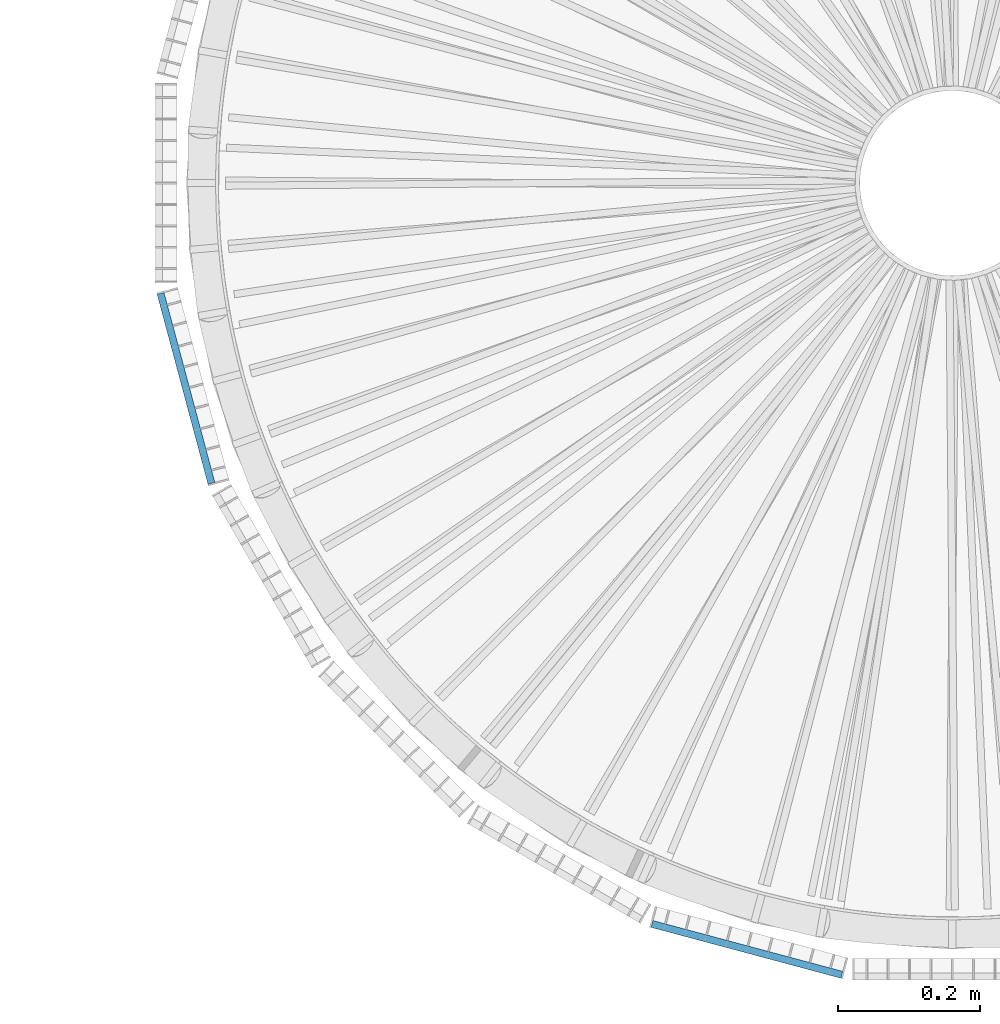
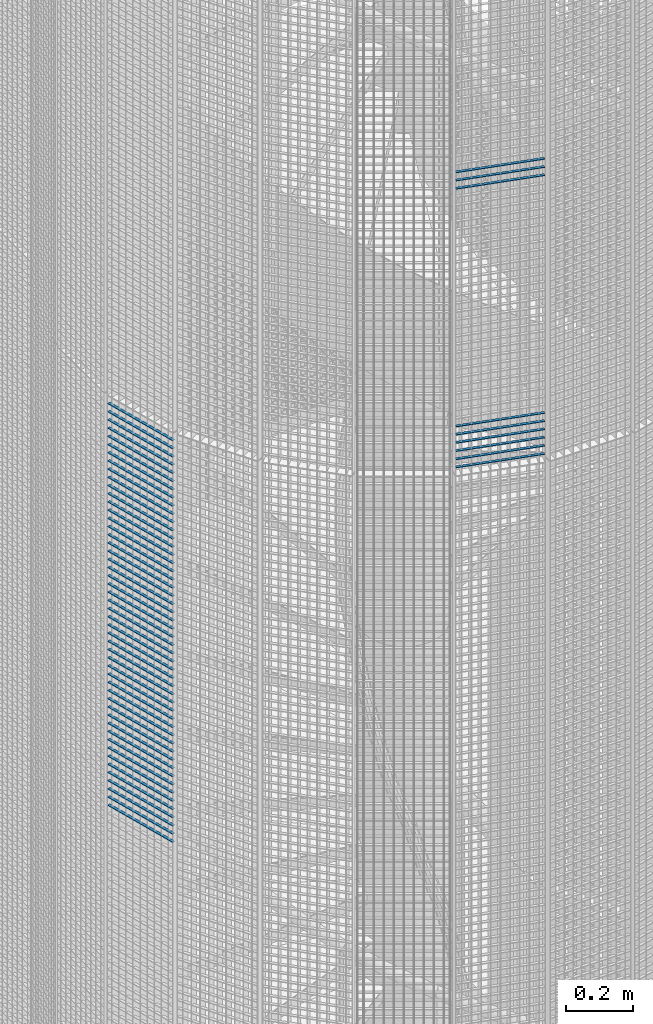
# One storey, part 345 of 1183: 59 beams, 2 elements without a shape of their own.
"""IFC2X3 building model written with IfcOpenShell, lengths in millimetres."""

from ifc_helpers import new_model, si_unit, frame, origin_with_axes, origin_2d_with_axis, place, context, subcontext, project, spatial, rectangle, extrude, material, type_object, element, aggregate, save


model = new_model("IFC2X3")

# Units and contexts
model_context = context("Model", 3, precision=1e-05, world=origin_with_axes())
body_context = subcontext(model_context, "Body", "Model", "MODEL_VIEW")
ifc_project = project(units=[si_unit("LENGTHUNIT", "METRE", prefix="MILLI"), si_unit("AREAUNIT", "SQUARE_METRE"), si_unit("VOLUMEUNIT", "CUBIC_METRE"), si_unit("MASSUNIT", "GRAM", prefix="KILO"), si_unit("TIMEUNIT", "SECOND"), si_unit("PLANEANGLEUNIT", "RADIAN"), si_unit("SOLIDANGLEUNIT", "STERADIAN"), si_unit("THERMODYNAMICTEMPERATUREUNIT", "DEGREE_CELSIUS"), si_unit("LUMINOUSINTENSITYUNIT", "LUMEN")], contexts=[model_context])

# Site, building, storey
site_placement = place(None, origin_with_axes())
site = spatial("IfcSite", under=ifc_project, at=site_placement, Name="Undefined", CompositionType="ELEMENT")
building_placement = place(site_placement, origin_with_axes())
building = spatial("IfcBuilding", under=site, at=building_placement, Name="Undefined", CompositionType="ELEMENT")
storey_placement = place(building_placement, origin_with_axes())
storey = spatial("IfcBuildingStorey", under=building, at=storey_placement, Name="Undefined", CompositionType="ELEMENT", Elevation=0.0)

# Assembly, beams
assembly_1_placement = place(storey_placement, origin_with_axes())
assembly_1 = element("IfcElementAssembly", 1, at=assembly_1_placement, inside=storey, Name="BORDURE", AssemblyPlace="NOTDEFINED", PredefinedType="NOTDEFINED")
ifc_material = material(Name="STEEL/S235JR")
beam_type = type_object("IfcBeamType", Name="PL2*10", PredefinedType="NOTDEFINED")
beam_1_placement = place(assembly_1_placement, frame((21445.1040732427, -1111.25508286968, 15180.0), z_axis=(-0.258819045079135, -0.965925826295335, 0.0), x_axis=(-0.965925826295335, 0.258819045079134, 0.0)))
beam_1 = element("IfcBeam", 2, at=beam_1_placement, type_object=beam_type, material=ifc_material, Name="ENTRETOISE", context=body_context, shape_type="SweptSolid", body=[
    extrude(rectangle(XDim=2.0, YDim=10.0, at=origin_2d_with_axis()), frame((275.999999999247, 9.09494701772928e-13, 1.53210777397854e-14), z_axis=(-1.0, 0.0, 0.0), x_axis=(0.0, -1.0, 0.0)), (0.0, 0.0, 1.0), 276.0),
])
beam_2_placement = place(assembly_1_placement, frame((21445.1040732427, -1111.25508286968, 16050.0), z_axis=(-0.258819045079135, -0.965925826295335, 0.0), x_axis=(-0.965925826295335, 0.258819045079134, 0.0)))
beam_2 = element("IfcBeam", 3, at=beam_2_placement, type_object=beam_type, material=ifc_material, Name="ENTRETOISE", context=body_context, shape_type="SweptSolid", body=[
    extrude(rectangle(XDim=2.0, YDim=10.0, at=origin_2d_with_axis()), frame((275.999999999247, 9.09494701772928e-13, 1.53210777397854e-14), z_axis=(-1.0, 0.0, 0.0), x_axis=(0.0, -1.0, 0.0)), (0.0, 0.0, 1.0), 276.0),
])
beam_3_placement = place(assembly_1_placement, frame((21445.1040732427, -1111.25508286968, 15150.0), z_axis=(-0.258819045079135, -0.965925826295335, 0.0), x_axis=(-0.965925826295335, 0.258819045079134, 0.0)))
beam_3 = element("IfcBeam", 4, at=beam_3_placement, type_object=beam_type, material=ifc_material, Name="ENTRETOISE", context=body_context, shape_type="SweptSolid", body=[
    extrude(rectangle(XDim=2.0, YDim=10.0, at=origin_2d_with_axis()), frame((275.999999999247, 9.09494701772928e-13, 1.53210777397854e-14), z_axis=(-1.0, 0.0, 0.0), x_axis=(0.0, -1.0, 0.0)), (0.0, 0.0, 1.0), 276.0),
])
beam_4_placement = place(assembly_1_placement, frame((21445.1040732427, -1111.25508286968, 15120.0), z_axis=(-0.258819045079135, -0.965925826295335, 0.0), x_axis=(-0.965925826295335, 0.258819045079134, 0.0)))
beam_4 = element("IfcBeam", 5, at=beam_4_placement, type_object=beam_type, material=ifc_material, Name="ENTRETOISE", context=body_context, shape_type="SweptSolid", body=[
    extrude(rectangle(XDim=2.0, YDim=10.0, at=origin_2d_with_axis()), frame((275.999999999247, 9.09494701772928e-13, 1.53210777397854e-14), z_axis=(-1.0, 0.0, 0.0), x_axis=(0.0, -1.0, 0.0)), (0.0, 0.0, 1.0), 276.0),
])
beam_5_placement = place(assembly_1_placement, frame((21445.1040732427, -1111.25508286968, 16080.0), z_axis=(-0.258819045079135, -0.965925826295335, 0.0), x_axis=(-0.965925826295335, 0.258819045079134, 0.0)))
beam_5 = element("IfcBeam", 6, at=beam_5_placement, type_object=beam_type, material=ifc_material, Name="ENTRETOISE", context=body_context, shape_type="SweptSolid", body=[
    extrude(rectangle(XDim=2.0, YDim=10.0, at=origin_2d_with_axis()), frame((275.999999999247, 9.09494701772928e-13, 1.53210777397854e-14), z_axis=(-1.0, 0.0, 0.0), x_axis=(0.0, -1.0, 0.0)), (0.0, 0.0, 1.0), 276.0),
])
beam_6_placement = place(assembly_1_placement, frame((21445.1040732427, -1111.25508286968, 15090.0), z_axis=(-0.258819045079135, -0.965925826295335, 0.0), x_axis=(-0.965925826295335, 0.258819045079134, 0.0)))
beam_6 = element("IfcBeam", 7, at=beam_6_placement, type_object=beam_type, material=ifc_material, Name="ENTRETOISE", context=body_context, shape_type="SweptSolid", body=[
    extrude(rectangle(XDim=2.0, YDim=10.0, at=origin_2d_with_axis()), frame((275.999999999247, 9.09494701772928e-13, 1.53210777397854e-14), z_axis=(-1.0, 0.0, 0.0), x_axis=(0.0, -1.0, 0.0)), (0.0, 0.0, 1.0), 276.0),
])
beam_7_placement = place(assembly_1_placement, frame((21445.1040732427, -1111.25508286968, 15060.0), z_axis=(-0.258819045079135, -0.965925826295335, 0.0), x_axis=(-0.965925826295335, 0.258819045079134, 0.0)))
beam_7 = element("IfcBeam", 8, at=beam_7_placement, type_object=beam_type, material=ifc_material, Name="ENTRETOISE", context=body_context, shape_type="SweptSolid", body=[
    extrude(rectangle(XDim=2.0, YDim=10.0, at=origin_2d_with_axis()), frame((275.999999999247, 9.09494701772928e-13, 1.53210777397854e-14), z_axis=(-1.0, 0.0, 0.0), x_axis=(0.0, -1.0, 0.0)), (0.0, 0.0, 1.0), 276.0),
])
beam_8_placement = place(assembly_1_placement, frame((21445.1040732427, -1111.25508286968, 16110.0), z_axis=(-0.258819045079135, -0.965925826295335, 0.0), x_axis=(-0.965925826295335, 0.258819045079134, 0.0)))
beam_8 = element("IfcBeam", 9, at=beam_8_placement, type_object=beam_type, material=ifc_material, Name="ENTRETOISE", context=body_context, shape_type="SweptSolid", body=[
    extrude(rectangle(XDim=2.0, YDim=10.0, at=origin_2d_with_axis()), frame((275.999999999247, 9.09494701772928e-13, 1.53210777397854e-14), z_axis=(-1.0, 0.0, 0.0), x_axis=(0.0, -1.0, 0.0)), (0.0, 0.0, 1.0), 276.0),
])
beam_9_placement = place(assembly_1_placement, frame((21445.1040732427, -1111.25508286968, 15030.0), z_axis=(-0.258819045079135, -0.965925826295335, 0.0), x_axis=(-0.965925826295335, 0.258819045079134, 0.0)))
beam_9 = element("IfcBeam", 10, at=beam_9_placement, type_object=beam_type, material=ifc_material, Name="ENTRETOISE", context=body_context, shape_type="SweptSolid", body=[
    extrude(rectangle(XDim=2.0, YDim=10.0, at=origin_2d_with_axis()), frame((275.999999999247, 9.09494701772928e-13, 1.53210777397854e-14), z_axis=(-1.0, 0.0, 0.0), x_axis=(0.0, -1.0, 0.0)), (0.0, 0.0, 1.0), 276.0),
])
aggregate(assembly_1, [beam_1, beam_2, beam_3, beam_4, beam_5, beam_6, beam_7, beam_8, beam_9])

assembly_2_placement = place(storey_placement, origin_with_axes())
assembly_2 = element("IfcElementAssembly", 11, at=assembly_2_placement, inside=storey, Name="BORDURE", AssemblyPlace="NOTDEFINED", PredefinedType="NOTDEFINED")
beam_10_placement = place(assembly_2_placement, frame((20560.1769047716, -421.483733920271, 14970.0), z_axis=(-0.965925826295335, -0.258819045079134, 0.0), x_axis=(-0.258819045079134, 0.965925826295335, 0.0)))
beam_10 = element("IfcBeam", 12, at=beam_10_placement, type_object=beam_type, material=ifc_material, Name="ENTRETOISE", context=body_context, shape_type="SweptSolid", body=[
    extrude(rectangle(XDim=2.0, YDim=10.0, at=origin_2d_with_axis()), frame((275.999999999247, 9.09494701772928e-13, 1.53210777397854e-14), z_axis=(-1.0, 0.0, 0.0), x_axis=(0.0, -1.0, 0.0)), (0.0, 0.0, 1.0), 276.0),
])
beam_11_placement = place(assembly_2_placement, frame((20560.1769047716, -421.483733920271, 14940.0), z_axis=(-0.965925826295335, -0.258819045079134, 0.0), x_axis=(-0.258819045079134, 0.965925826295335, 0.0)))
beam_11 = element("IfcBeam", 13, at=beam_11_placement, type_object=beam_type, material=ifc_material, Name="ENTRETOISE", context=body_context, shape_type="SweptSolid", body=[
    extrude(rectangle(XDim=2.0, YDim=10.0, at=origin_2d_with_axis()), frame((275.999999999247, 9.09494701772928e-13, 1.53210777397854e-14), z_axis=(-1.0, 0.0, 0.0), x_axis=(0.0, -1.0, 0.0)), (0.0, 0.0, 1.0), 276.0),
])
beam_12_placement = place(assembly_2_placement, frame((20560.1769047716, -421.483733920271, 14910.0), z_axis=(-0.965925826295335, -0.258819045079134, 0.0), x_axis=(-0.258819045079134, 0.965925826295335, 0.0)))
beam_12 = element("IfcBeam", 14, at=beam_12_placement, type_object=beam_type, material=ifc_material, Name="ENTRETOISE", context=body_context, shape_type="SweptSolid", body=[
    extrude(rectangle(XDim=2.0, YDim=10.0, at=origin_2d_with_axis()), frame((275.999999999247, 9.09494701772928e-13, 1.53210777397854e-14), z_axis=(-1.0, 0.0, 0.0), x_axis=(0.0, -1.0, 0.0)), (0.0, 0.0, 1.0), 276.0),
])
beam_13_placement = place(assembly_2_placement, frame((20560.1769047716, -421.483733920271, 14880.0), z_axis=(-0.965925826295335, -0.258819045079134, 0.0), x_axis=(-0.258819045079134, 0.965925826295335, 0.0)))
beam_13 = element("IfcBeam", 15, at=beam_13_placement, type_object=beam_type, material=ifc_material, Name="ENTRETOISE", context=body_context, shape_type="SweptSolid", body=[
    extrude(rectangle(XDim=2.0, YDim=10.0, at=origin_2d_with_axis()), frame((275.999999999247, 9.09494701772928e-13, 1.53210777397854e-14), z_axis=(-1.0, 0.0, 0.0), x_axis=(0.0, -1.0, 0.0)), (0.0, 0.0, 1.0), 276.0),
])
beam_14_placement = place(assembly_2_placement, frame((20560.1769047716, -421.483733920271, 14850.0), z_axis=(-0.965925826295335, -0.258819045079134, 0.0), x_axis=(-0.258819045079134, 0.965925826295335, 0.0)))
beam_14 = element("IfcBeam", 16, at=beam_14_placement, type_object=beam_type, material=ifc_material, Name="ENTRETOISE", context=body_context, shape_type="SweptSolid", body=[
    extrude(rectangle(XDim=2.0, YDim=10.0, at=origin_2d_with_axis()), frame((275.999999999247, 9.09494701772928e-13, 1.53210777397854e-14), z_axis=(-1.0, 0.0, 0.0), x_axis=(0.0, -1.0, 0.0)), (0.0, 0.0, 1.0), 276.0),
])
beam_15_placement = place(assembly_2_placement, frame((20560.1769047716, -421.483733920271, 14820.0), z_axis=(-0.965925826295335, -0.258819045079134, 0.0), x_axis=(-0.258819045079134, 0.965925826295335, 0.0)))
beam_15 = element("IfcBeam", 17, at=beam_15_placement, type_object=beam_type, material=ifc_material, Name="ENTRETOISE", context=body_context, shape_type="SweptSolid", body=[
    extrude(rectangle(XDim=2.0, YDim=10.0, at=origin_2d_with_axis()), frame((275.999999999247, 9.09494701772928e-13, 1.53210777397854e-14), z_axis=(-1.0, 0.0, 0.0), x_axis=(0.0, -1.0, 0.0)), (0.0, 0.0, 1.0), 276.0),
])
beam_16_placement = place(assembly_2_placement, frame((20560.1769047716, -421.483733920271, 14790.0), z_axis=(-0.965925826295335, -0.258819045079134, 0.0), x_axis=(-0.258819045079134, 0.965925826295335, 0.0)))
beam_16 = element("IfcBeam", 18, at=beam_16_placement, type_object=beam_type, material=ifc_material, Name="ENTRETOISE", context=body_context, shape_type="SweptSolid", body=[
    extrude(rectangle(XDim=2.0, YDim=10.0, at=origin_2d_with_axis()), frame((275.999999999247, 9.09494701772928e-13, 1.53210777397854e-14), z_axis=(-1.0, 0.0, 0.0), x_axis=(0.0, -1.0, 0.0)), (0.0, 0.0, 1.0), 276.0),
])
beam_17_placement = place(assembly_2_placement, frame((20560.1769047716, -421.483733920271, 14760.0), z_axis=(-0.965925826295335, -0.258819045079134, 0.0), x_axis=(-0.258819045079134, 0.965925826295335, 0.0)))
beam_17 = element("IfcBeam", 19, at=beam_17_placement, type_object=beam_type, material=ifc_material, Name="ENTRETOISE", context=body_context, shape_type="SweptSolid", body=[
    extrude(rectangle(XDim=2.0, YDim=10.0, at=origin_2d_with_axis()), frame((275.999999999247, 9.09494701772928e-13, 1.53210777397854e-14), z_axis=(-1.0, 0.0, 0.0), x_axis=(0.0, -1.0, 0.0)), (0.0, 0.0, 1.0), 276.0),
])
beam_18_placement = place(assembly_2_placement, frame((20560.1769047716, -421.48373392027, 14730.0), z_axis=(-0.965925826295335, -0.258819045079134, 0.0), x_axis=(-0.258819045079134, 0.965925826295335, 0.0)))
beam_18 = element("IfcBeam", 20, at=beam_18_placement, type_object=beam_type, material=ifc_material, Name="ENTRETOISE", context=body_context, shape_type="SweptSolid", body=[
    extrude(rectangle(XDim=2.0, YDim=10.0, at=origin_2d_with_axis()), frame((275.999999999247, 9.09494701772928e-13, 1.53210777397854e-14), z_axis=(-1.0, 0.0, 0.0), x_axis=(0.0, -1.0, 0.0)), (0.0, 0.0, 1.0), 276.0),
])
beam_19_placement = place(assembly_2_placement, frame((20560.1769047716, -421.48373392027, 14700.0), z_axis=(-0.965925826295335, -0.258819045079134, 0.0), x_axis=(-0.258819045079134, 0.965925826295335, 0.0)))
beam_19 = element("IfcBeam", 21, at=beam_19_placement, type_object=beam_type, material=ifc_material, Name="ENTRETOISE", context=body_context, shape_type="SweptSolid", body=[
    extrude(rectangle(XDim=2.0, YDim=10.0, at=origin_2d_with_axis()), frame((275.999999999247, 9.09494701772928e-13, 1.53210777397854e-14), z_axis=(-1.0, 0.0, 0.0), x_axis=(0.0, -1.0, 0.0)), (0.0, 0.0, 1.0), 276.0),
])
beam_20_placement = place(assembly_2_placement, frame((20560.1769047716, -421.48373392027, 14670.0), z_axis=(-0.965925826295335, -0.258819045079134, 0.0), x_axis=(-0.258819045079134, 0.965925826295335, 0.0)))
beam_20 = element("IfcBeam", 22, at=beam_20_placement, type_object=beam_type, material=ifc_material, Name="ENTRETOISE", context=body_context, shape_type="SweptSolid", body=[
    extrude(rectangle(XDim=2.0, YDim=10.0, at=origin_2d_with_axis()), frame((275.999999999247, 9.09494701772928e-13, 1.53210777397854e-14), z_axis=(-1.0, 0.0, 0.0), x_axis=(0.0, -1.0, 0.0)), (0.0, 0.0, 1.0), 276.0),
])
beam_21_placement = place(assembly_2_placement, frame((20560.1769047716, -421.48373392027, 14640.0), z_axis=(-0.965925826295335, -0.258819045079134, 0.0), x_axis=(-0.258819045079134, 0.965925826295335, 0.0)))
beam_21 = element("IfcBeam", 23, at=beam_21_placement, type_object=beam_type, material=ifc_material, Name="ENTRETOISE", context=body_context, shape_type="SweptSolid", body=[
    extrude(rectangle(XDim=2.0, YDim=10.0, at=origin_2d_with_axis()), frame((275.999999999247, 9.09494701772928e-13, 1.53210777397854e-14), z_axis=(-1.0, 0.0, 0.0), x_axis=(0.0, -1.0, 0.0)), (0.0, 0.0, 1.0), 276.0),
])
beam_22_placement = place(assembly_2_placement, frame((20560.1769047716, -421.48373392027, 14610.0), z_axis=(-0.965925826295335, -0.258819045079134, 0.0), x_axis=(-0.258819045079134, 0.965925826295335, 0.0)))
beam_22 = element("IfcBeam", 24, at=beam_22_placement, type_object=beam_type, material=ifc_material, Name="ENTRETOISE", context=body_context, shape_type="SweptSolid", body=[
    extrude(rectangle(XDim=2.0, YDim=10.0, at=origin_2d_with_axis()), frame((275.999999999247, 9.09494701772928e-13, 1.53210777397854e-14), z_axis=(-1.0, 0.0, 0.0), x_axis=(0.0, -1.0, 0.0)), (0.0, 0.0, 1.0), 276.0),
])
beam_23_placement = place(assembly_2_placement, frame((20560.1769047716, -421.48373392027, 14580.0), z_axis=(-0.965925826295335, -0.258819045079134, 0.0), x_axis=(-0.258819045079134, 0.965925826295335, 0.0)))
beam_23 = element("IfcBeam", 25, at=beam_23_placement, type_object=beam_type, material=ifc_material, Name="ENTRETOISE", context=body_context, shape_type="SweptSolid", body=[
    extrude(rectangle(XDim=2.0, YDim=10.0, at=origin_2d_with_axis()), frame((275.999999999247, 9.09494701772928e-13, 1.53210777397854e-14), z_axis=(-1.0, 0.0, 0.0), x_axis=(0.0, -1.0, 0.0)), (0.0, 0.0, 1.0), 276.0),
])
beam_24_placement = place(assembly_2_placement, frame((20560.1769047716, -421.48373392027, 14550.0), z_axis=(-0.965925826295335, -0.258819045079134, 0.0), x_axis=(-0.258819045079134, 0.965925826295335, 0.0)))
beam_24 = element("IfcBeam", 26, at=beam_24_placement, type_object=beam_type, material=ifc_material, Name="ENTRETOISE", context=body_context, shape_type="SweptSolid", body=[
    extrude(rectangle(XDim=2.0, YDim=10.0, at=origin_2d_with_axis()), frame((275.999999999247, 9.09494701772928e-13, 1.53210777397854e-14), z_axis=(-1.0, 0.0, 0.0), x_axis=(0.0, -1.0, 0.0)), (0.0, 0.0, 1.0), 276.0),
])
beam_25_placement = place(assembly_2_placement, frame((20560.1769047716, -421.48373392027, 14520.0), z_axis=(-0.965925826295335, -0.258819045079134, 0.0), x_axis=(-0.258819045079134, 0.965925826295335, 0.0)))
beam_25 = element("IfcBeam", 27, at=beam_25_placement, type_object=beam_type, material=ifc_material, Name="ENTRETOISE", context=body_context, shape_type="SweptSolid", body=[
    extrude(rectangle(XDim=2.0, YDim=10.0, at=origin_2d_with_axis()), frame((275.999999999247, 9.09494701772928e-13, 1.53210777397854e-14), z_axis=(-1.0, 0.0, 0.0), x_axis=(0.0, -1.0, 0.0)), (0.0, 0.0, 1.0), 276.0),
])
beam_26_placement = place(assembly_2_placement, frame((20560.1769047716, -421.48373392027, 14490.0), z_axis=(-0.965925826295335, -0.258819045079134, 0.0), x_axis=(-0.258819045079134, 0.965925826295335, 0.0)))
beam_26 = element("IfcBeam", 28, at=beam_26_placement, type_object=beam_type, material=ifc_material, Name="ENTRETOISE", context=body_context, shape_type="SweptSolid", body=[
    extrude(rectangle(XDim=2.0, YDim=10.0, at=origin_2d_with_axis()), frame((275.999999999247, 9.09494701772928e-13, 1.53210777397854e-14), z_axis=(-1.0, 0.0, 0.0), x_axis=(0.0, -1.0, 0.0)), (0.0, 0.0, 1.0), 276.0),
])
beam_27_placement = place(assembly_2_placement, frame((20560.1769047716, -421.483733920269, 14460.0), z_axis=(-0.965925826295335, -0.258819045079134, 0.0), x_axis=(-0.258819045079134, 0.965925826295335, 0.0)))
beam_27 = element("IfcBeam", 29, at=beam_27_placement, type_object=beam_type, material=ifc_material, Name="ENTRETOISE", context=body_context, shape_type="SweptSolid", body=[
    extrude(rectangle(XDim=2.0, YDim=10.0, at=origin_2d_with_axis()), frame((275.999999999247, 9.09494701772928e-13, 1.53210777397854e-14), z_axis=(-1.0, 0.0, 0.0), x_axis=(0.0, -1.0, 0.0)), (0.0, 0.0, 1.0), 276.0),
])
beam_28_placement = place(assembly_2_placement, frame((20560.1769047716, -421.483733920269, 14430.0), z_axis=(-0.965925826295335, -0.258819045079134, 0.0), x_axis=(-0.258819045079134, 0.965925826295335, 0.0)))
beam_28 = element("IfcBeam", 30, at=beam_28_placement, type_object=beam_type, material=ifc_material, Name="ENTRETOISE", context=body_context, shape_type="SweptSolid", body=[
    extrude(rectangle(XDim=2.0, YDim=10.0, at=origin_2d_with_axis()), frame((275.999999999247, 9.09494701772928e-13, 1.53210777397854e-14), z_axis=(-1.0, 0.0, 0.0), x_axis=(0.0, -1.0, 0.0)), (0.0, 0.0, 1.0), 276.0),
])
beam_29_placement = place(assembly_2_placement, frame((20560.1769047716, -421.483733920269, 14400.0), z_axis=(-0.965925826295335, -0.258819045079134, 0.0), x_axis=(-0.258819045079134, 0.965925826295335, 0.0)))
beam_29 = element("IfcBeam", 31, at=beam_29_placement, type_object=beam_type, material=ifc_material, Name="ENTRETOISE", context=body_context, shape_type="SweptSolid", body=[
    extrude(rectangle(XDim=2.0, YDim=10.0, at=origin_2d_with_axis()), frame((275.999999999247, 9.09494701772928e-13, 1.53210777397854e-14), z_axis=(-1.0, 0.0, 0.0), x_axis=(0.0, -1.0, 0.0)), (0.0, 0.0, 1.0), 276.0),
])
beam_30_placement = place(assembly_2_placement, frame((20560.1769047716, -421.483733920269, 14370.0), z_axis=(-0.965925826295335, -0.258819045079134, 0.0), x_axis=(-0.258819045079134, 0.965925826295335, 0.0)))
beam_30 = element("IfcBeam", 32, at=beam_30_placement, type_object=beam_type, material=ifc_material, Name="ENTRETOISE", context=body_context, shape_type="SweptSolid", body=[
    extrude(rectangle(XDim=2.0, YDim=10.0, at=origin_2d_with_axis()), frame((275.999999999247, 9.09494701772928e-13, 1.53210777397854e-14), z_axis=(-1.0, 0.0, 0.0), x_axis=(0.0, -1.0, 0.0)), (0.0, 0.0, 1.0), 276.0),
])
beam_31_placement = place(assembly_2_placement, frame((20560.1769047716, -421.483733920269, 14340.0), z_axis=(-0.965925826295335, -0.258819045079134, 0.0), x_axis=(-0.258819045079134, 0.965925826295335, 0.0)))
beam_31 = element("IfcBeam", 33, at=beam_31_placement, type_object=beam_type, material=ifc_material, Name="ENTRETOISE", context=body_context, shape_type="SweptSolid", body=[
    extrude(rectangle(XDim=2.0, YDim=10.0, at=origin_2d_with_axis()), frame((275.999999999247, 9.09494701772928e-13, 1.53210777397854e-14), z_axis=(-1.0, 0.0, 0.0), x_axis=(0.0, -1.0, 0.0)), (0.0, 0.0, 1.0), 276.0),
])
beam_32_placement = place(assembly_2_placement, frame((20560.1769047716, -421.483733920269, 14310.0), z_axis=(-0.965925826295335, -0.258819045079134, 0.0), x_axis=(-0.258819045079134, 0.965925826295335, 0.0)))
beam_32 = element("IfcBeam", 34, at=beam_32_placement, type_object=beam_type, material=ifc_material, Name="ENTRETOISE", context=body_context, shape_type="SweptSolid", body=[
    extrude(rectangle(XDim=2.0, YDim=10.0, at=origin_2d_with_axis()), frame((275.999999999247, 9.09494701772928e-13, 1.53210777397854e-14), z_axis=(-1.0, 0.0, 0.0), x_axis=(0.0, -1.0, 0.0)), (0.0, 0.0, 1.0), 276.0),
])
beam_33_placement = place(assembly_2_placement, frame((20560.1769047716, -421.483733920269, 14280.0), z_axis=(-0.965925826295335, -0.258819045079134, 0.0), x_axis=(-0.258819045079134, 0.965925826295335, 0.0)))
beam_33 = element("IfcBeam", 35, at=beam_33_placement, type_object=beam_type, material=ifc_material, Name="ENTRETOISE", context=body_context, shape_type="SweptSolid", body=[
    extrude(rectangle(XDim=2.0, YDim=10.0, at=origin_2d_with_axis()), frame((275.999999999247, 9.09494701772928e-13, 1.53210777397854e-14), z_axis=(-1.0, 0.0, 0.0), x_axis=(0.0, -1.0, 0.0)), (0.0, 0.0, 1.0), 276.0),
])
beam_34_placement = place(assembly_2_placement, frame((20560.1769047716, -421.483733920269, 14250.0), z_axis=(-0.965925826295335, -0.258819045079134, 0.0), x_axis=(-0.258819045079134, 0.965925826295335, 0.0)))
beam_34 = element("IfcBeam", 36, at=beam_34_placement, type_object=beam_type, material=ifc_material, Name="ENTRETOISE", context=body_context, shape_type="SweptSolid", body=[
    extrude(rectangle(XDim=2.0, YDim=10.0, at=origin_2d_with_axis()), frame((275.999999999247, 9.09494701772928e-13, 1.53210777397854e-14), z_axis=(-1.0, 0.0, 0.0), x_axis=(0.0, -1.0, 0.0)), (0.0, 0.0, 1.0), 276.0),
])
beam_35_placement = place(assembly_2_placement, frame((20560.1769047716, -421.483733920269, 14220.0), z_axis=(-0.965925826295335, -0.258819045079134, 0.0), x_axis=(-0.258819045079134, 0.965925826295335, 0.0)))
beam_35 = element("IfcBeam", 37, at=beam_35_placement, type_object=beam_type, material=ifc_material, Name="ENTRETOISE", context=body_context, shape_type="SweptSolid", body=[
    extrude(rectangle(XDim=2.0, YDim=10.0, at=origin_2d_with_axis()), frame((275.999999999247, 9.09494701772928e-13, 1.53210777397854e-14), z_axis=(-1.0, 0.0, 0.0), x_axis=(0.0, -1.0, 0.0)), (0.0, 0.0, 1.0), 276.0),
])
beam_36_placement = place(assembly_2_placement, frame((20560.1769047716, -421.483733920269, 14190.0), z_axis=(-0.965925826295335, -0.258819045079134, 0.0), x_axis=(-0.258819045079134, 0.965925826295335, 0.0)))
beam_36 = element("IfcBeam", 38, at=beam_36_placement, type_object=beam_type, material=ifc_material, Name="ENTRETOISE", context=body_context, shape_type="SweptSolid", body=[
    extrude(rectangle(XDim=2.0, YDim=10.0, at=origin_2d_with_axis()), frame((275.999999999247, 9.09494701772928e-13, 1.53210777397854e-14), z_axis=(-1.0, 0.0, 0.0), x_axis=(0.0, -1.0, 0.0)), (0.0, 0.0, 1.0), 276.0),
])
beam_37_placement = place(assembly_2_placement, frame((20560.1769047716, -421.483733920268, 14160.0), z_axis=(-0.965925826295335, -0.258819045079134, 0.0), x_axis=(-0.258819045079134, 0.965925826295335, 0.0)))
beam_37 = element("IfcBeam", 39, at=beam_37_placement, type_object=beam_type, material=ifc_material, Name="ENTRETOISE", context=body_context, shape_type="SweptSolid", body=[
    extrude(rectangle(XDim=2.0, YDim=10.0, at=origin_2d_with_axis()), frame((275.999999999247, 9.09494701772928e-13, 1.53210777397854e-14), z_axis=(-1.0, 0.0, 0.0), x_axis=(0.0, -1.0, 0.0)), (0.0, 0.0, 1.0), 276.0),
])
beam_38_placement = place(assembly_2_placement, frame((20560.1769047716, -421.483733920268, 14130.0), z_axis=(-0.965925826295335, -0.258819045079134, 0.0), x_axis=(-0.258819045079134, 0.965925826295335, 0.0)))
beam_38 = element("IfcBeam", 40, at=beam_38_placement, type_object=beam_type, material=ifc_material, Name="ENTRETOISE", context=body_context, shape_type="SweptSolid", body=[
    extrude(rectangle(XDim=2.0, YDim=10.0, at=origin_2d_with_axis()), frame((275.999999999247, 9.09494701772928e-13, 1.53210777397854e-14), z_axis=(-1.0, 0.0, 0.0), x_axis=(0.0, -1.0, 0.0)), (0.0, 0.0, 1.0), 276.0),
])
beam_39_placement = place(assembly_2_placement, frame((20560.1769047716, -421.483733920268, 14100.0), z_axis=(-0.965925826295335, -0.258819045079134, 0.0), x_axis=(-0.258819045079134, 0.965925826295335, 0.0)))
beam_39 = element("IfcBeam", 41, at=beam_39_placement, type_object=beam_type, material=ifc_material, Name="ENTRETOISE", context=body_context, shape_type="SweptSolid", body=[
    extrude(rectangle(XDim=2.0, YDim=10.0, at=origin_2d_with_axis()), frame((275.999999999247, 9.09494701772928e-13, 1.53210777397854e-14), z_axis=(-1.0, 0.0, 0.0), x_axis=(0.0, -1.0, 0.0)), (0.0, 0.0, 1.0), 276.0),
])
beam_40_placement = place(assembly_2_placement, frame((20560.1769047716, -421.483733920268, 14070.0), z_axis=(-0.965925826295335, -0.258819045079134, 0.0), x_axis=(-0.258819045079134, 0.965925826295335, 0.0)))
beam_40 = element("IfcBeam", 42, at=beam_40_placement, type_object=beam_type, material=ifc_material, Name="ENTRETOISE", context=body_context, shape_type="SweptSolid", body=[
    extrude(rectangle(XDim=2.0, YDim=10.0, at=origin_2d_with_axis()), frame((275.999999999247, 9.09494701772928e-13, 1.53210777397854e-14), z_axis=(-1.0, 0.0, 0.0), x_axis=(0.0, -1.0, 0.0)), (0.0, 0.0, 1.0), 276.0),
])
beam_41_placement = place(assembly_2_placement, frame((20560.1769047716, -421.483733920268, 14040.0), z_axis=(-0.965925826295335, -0.258819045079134, 0.0), x_axis=(-0.258819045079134, 0.965925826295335, 0.0)))
beam_41 = element("IfcBeam", 43, at=beam_41_placement, type_object=beam_type, material=ifc_material, Name="ENTRETOISE", context=body_context, shape_type="SweptSolid", body=[
    extrude(rectangle(XDim=2.0, YDim=10.0, at=origin_2d_with_axis()), frame((275.999999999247, 9.09494701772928e-13, 1.53210777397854e-14), z_axis=(-1.0, 0.0, 0.0), x_axis=(0.0, -1.0, 0.0)), (0.0, 0.0, 1.0), 276.0),
])
beam_42_placement = place(assembly_2_placement, frame((20560.1769047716, -421.483733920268, 14010.0), z_axis=(-0.965925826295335, -0.258819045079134, 0.0), x_axis=(-0.258819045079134, 0.965925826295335, 0.0)))
beam_42 = element("IfcBeam", 44, at=beam_42_placement, type_object=beam_type, material=ifc_material, Name="ENTRETOISE", context=body_context, shape_type="SweptSolid", body=[
    extrude(rectangle(XDim=2.0, YDim=10.0, at=origin_2d_with_axis()), frame((275.999999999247, 9.09494701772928e-13, 1.53210777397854e-14), z_axis=(-1.0, 0.0, 0.0), x_axis=(0.0, -1.0, 0.0)), (0.0, 0.0, 1.0), 276.0),
])
beam_43_placement = place(assembly_2_placement, frame((20560.1769047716, -421.483733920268, 13980.0), z_axis=(-0.965925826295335, -0.258819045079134, 0.0), x_axis=(-0.258819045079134, 0.965925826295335, 0.0)))
beam_43 = element("IfcBeam", 45, at=beam_43_placement, type_object=beam_type, material=ifc_material, Name="ENTRETOISE", context=body_context, shape_type="SweptSolid", body=[
    extrude(rectangle(XDim=2.0, YDim=10.0, at=origin_2d_with_axis()), frame((275.999999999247, 9.09494701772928e-13, 1.53210777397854e-14), z_axis=(-1.0, 0.0, 0.0), x_axis=(0.0, -1.0, 0.0)), (0.0, 0.0, 1.0), 276.0),
])
beam_44_placement = place(assembly_2_placement, frame((20560.1769047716, -421.483733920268, 13950.0), z_axis=(-0.965925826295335, -0.258819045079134, 0.0), x_axis=(-0.258819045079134, 0.965925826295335, 0.0)))
beam_44 = element("IfcBeam", 46, at=beam_44_placement, type_object=beam_type, material=ifc_material, Name="ENTRETOISE", context=body_context, shape_type="SweptSolid", body=[
    extrude(rectangle(XDim=2.0, YDim=10.0, at=origin_2d_with_axis()), frame((275.999999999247, 9.09494701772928e-13, 1.53210777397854e-14), z_axis=(-1.0, 0.0, 0.0), x_axis=(0.0, -1.0, 0.0)), (0.0, 0.0, 1.0), 276.0),
])
beam_45_placement = place(assembly_2_placement, frame((20560.1769047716, -421.483733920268, 13920.0), z_axis=(-0.965925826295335, -0.258819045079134, 0.0), x_axis=(-0.258819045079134, 0.965925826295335, 0.0)))
beam_45 = element("IfcBeam", 47, at=beam_45_placement, type_object=beam_type, material=ifc_material, Name="ENTRETOISE", context=body_context, shape_type="SweptSolid", body=[
    extrude(rectangle(XDim=2.0, YDim=10.0, at=origin_2d_with_axis()), frame((275.999999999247, 9.09494701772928e-13, 1.53210777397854e-14), z_axis=(-1.0, 0.0, 0.0), x_axis=(0.0, -1.0, 0.0)), (0.0, 0.0, 1.0), 276.0),
])
beam_46_placement = place(assembly_2_placement, frame((20560.1769047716, -421.483733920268, 13890.0), z_axis=(-0.965925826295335, -0.258819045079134, 0.0), x_axis=(-0.258819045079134, 0.965925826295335, 0.0)))
beam_46 = element("IfcBeam", 48, at=beam_46_placement, type_object=beam_type, material=ifc_material, Name="ENTRETOISE", context=body_context, shape_type="SweptSolid", body=[
    extrude(rectangle(XDim=2.0, YDim=10.0, at=origin_2d_with_axis()), frame((275.999999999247, 9.09494701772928e-13, 1.53210777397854e-14), z_axis=(-1.0, 0.0, 0.0), x_axis=(0.0, -1.0, 0.0)), (0.0, 0.0, 1.0), 276.0),
])
beam_47_placement = place(assembly_2_placement, frame((20560.1769047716, -421.483733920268, 13860.0), z_axis=(-0.965925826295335, -0.258819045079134, 0.0), x_axis=(-0.258819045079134, 0.965925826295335, 0.0)))
beam_47 = element("IfcBeam", 49, at=beam_47_placement, type_object=beam_type, material=ifc_material, Name="ENTRETOISE", context=body_context, shape_type="SweptSolid", body=[
    extrude(rectangle(XDim=2.0, YDim=10.0, at=origin_2d_with_axis()), frame((275.999999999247, 9.09494701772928e-13, 1.53210777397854e-14), z_axis=(-1.0, 0.0, 0.0), x_axis=(0.0, -1.0, 0.0)), (0.0, 0.0, 1.0), 276.0),
])
beam_48_placement = place(assembly_2_placement, frame((20560.1769047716, -421.483733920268, 13830.0), z_axis=(-0.965925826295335, -0.258819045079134, 0.0), x_axis=(-0.258819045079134, 0.965925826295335, 0.0)))
beam_48 = element("IfcBeam", 50, at=beam_48_placement, type_object=beam_type, material=ifc_material, Name="ENTRETOISE", context=body_context, shape_type="SweptSolid", body=[
    extrude(rectangle(XDim=2.0, YDim=10.0, at=origin_2d_with_axis()), frame((275.999999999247, 9.09494701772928e-13, 1.53210777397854e-14), z_axis=(-1.0, 0.0, 0.0), x_axis=(0.0, -1.0, 0.0)), (0.0, 0.0, 1.0), 276.0),
])
beam_49_placement = place(assembly_2_placement, frame((20560.1769047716, -421.483733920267, 13800.0), z_axis=(-0.965925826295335, -0.258819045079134, 0.0), x_axis=(-0.258819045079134, 0.965925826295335, 0.0)))
beam_49 = element("IfcBeam", 51, at=beam_49_placement, type_object=beam_type, material=ifc_material, Name="ENTRETOISE", context=body_context, shape_type="SweptSolid", body=[
    extrude(rectangle(XDim=2.0, YDim=10.0, at=origin_2d_with_axis()), frame((275.999999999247, 9.09494701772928e-13, 1.53210777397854e-14), z_axis=(-1.0, 0.0, 0.0), x_axis=(0.0, -1.0, 0.0)), (0.0, 0.0, 1.0), 276.0),
])
beam_50_placement = place(assembly_2_placement, frame((20560.1769047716, -421.483733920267, 13770.0), z_axis=(-0.965925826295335, -0.258819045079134, 0.0), x_axis=(-0.258819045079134, 0.965925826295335, 0.0)))
beam_50 = element("IfcBeam", 52, at=beam_50_placement, type_object=beam_type, material=ifc_material, Name="ENTRETOISE", context=body_context, shape_type="SweptSolid", body=[
    extrude(rectangle(XDim=2.0, YDim=10.0, at=origin_2d_with_axis()), frame((275.999999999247, 9.09494701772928e-13, 1.53210777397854e-14), z_axis=(-1.0, 0.0, 0.0), x_axis=(0.0, -1.0, 0.0)), (0.0, 0.0, 1.0), 276.0),
])
beam_51_placement = place(assembly_2_placement, frame((20560.1769047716, -421.483733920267, 13740.0), z_axis=(-0.965925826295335, -0.258819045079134, 0.0), x_axis=(-0.258819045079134, 0.965925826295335, 0.0)))
beam_51 = element("IfcBeam", 53, at=beam_51_placement, type_object=beam_type, material=ifc_material, Name="ENTRETOISE", context=body_context, shape_type="SweptSolid", body=[
    extrude(rectangle(XDim=2.0, YDim=10.0, at=origin_2d_with_axis()), frame((275.999999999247, 9.09494701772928e-13, 1.53210777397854e-14), z_axis=(-1.0, 0.0, 0.0), x_axis=(0.0, -1.0, 0.0)), (0.0, 0.0, 1.0), 276.0),
])
beam_52_placement = place(assembly_2_placement, frame((20560.1769047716, -421.483733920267, 13710.0), z_axis=(-0.965925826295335, -0.258819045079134, 0.0), x_axis=(-0.258819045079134, 0.965925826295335, 0.0)))
beam_52 = element("IfcBeam", 54, at=beam_52_placement, type_object=beam_type, material=ifc_material, Name="ENTRETOISE", context=body_context, shape_type="SweptSolid", body=[
    extrude(rectangle(XDim=2.0, YDim=10.0, at=origin_2d_with_axis()), frame((275.999999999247, 9.09494701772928e-13, 1.53210777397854e-14), z_axis=(-1.0, 0.0, 0.0), x_axis=(0.0, -1.0, 0.0)), (0.0, 0.0, 1.0), 276.0),
])
beam_53_placement = place(assembly_2_placement, frame((20560.1769047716, -421.483733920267, 13680.0), z_axis=(-0.965925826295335, -0.258819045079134, 0.0), x_axis=(-0.258819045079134, 0.965925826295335, 0.0)))
beam_53 = element("IfcBeam", 55, at=beam_53_placement, type_object=beam_type, material=ifc_material, Name="ENTRETOISE", context=body_context, shape_type="SweptSolid", body=[
    extrude(rectangle(XDim=2.0, YDim=10.0, at=origin_2d_with_axis()), frame((275.999999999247, 9.09494701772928e-13, 1.53210777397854e-14), z_axis=(-1.0, 0.0, 0.0), x_axis=(0.0, -1.0, 0.0)), (0.0, 0.0, 1.0), 276.0),
])
beam_54_placement = place(assembly_2_placement, frame((20560.1769047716, -421.483733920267, 13650.0), z_axis=(-0.965925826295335, -0.258819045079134, 0.0), x_axis=(-0.258819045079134, 0.965925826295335, 0.0)))
beam_54 = element("IfcBeam", 56, at=beam_54_placement, type_object=beam_type, material=ifc_material, Name="ENTRETOISE", context=body_context, shape_type="SweptSolid", body=[
    extrude(rectangle(XDim=2.0, YDim=10.0, at=origin_2d_with_axis()), frame((275.999999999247, 9.09494701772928e-13, 1.53210777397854e-14), z_axis=(-1.0, 0.0, 0.0), x_axis=(0.0, -1.0, 0.0)), (0.0, 0.0, 1.0), 276.0),
])
beam_55_placement = place(assembly_2_placement, frame((20560.1769047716, -421.483733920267, 13620.0), z_axis=(-0.965925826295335, -0.258819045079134, 0.0), x_axis=(-0.258819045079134, 0.965925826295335, 0.0)))
beam_55 = element("IfcBeam", 57, at=beam_55_placement, type_object=beam_type, material=ifc_material, Name="ENTRETOISE", context=body_context, shape_type="SweptSolid", body=[
    extrude(rectangle(XDim=2.0, YDim=10.0, at=origin_2d_with_axis()), frame((275.999999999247, 9.09494701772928e-13, 1.53210777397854e-14), z_axis=(-1.0, 0.0, 0.0), x_axis=(0.0, -1.0, 0.0)), (0.0, 0.0, 1.0), 276.0),
])
beam_56_placement = place(assembly_2_placement, frame((20560.1769047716, -421.483733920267, 13590.0), z_axis=(-0.965925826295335, -0.258819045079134, 0.0), x_axis=(-0.258819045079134, 0.965925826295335, 0.0)))
beam_56 = element("IfcBeam", 58, at=beam_56_placement, type_object=beam_type, material=ifc_material, Name="ENTRETOISE", context=body_context, shape_type="SweptSolid", body=[
    extrude(rectangle(XDim=2.0, YDim=10.0, at=origin_2d_with_axis()), frame((275.999999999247, 9.09494701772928e-13, 1.53210777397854e-14), z_axis=(-1.0, 0.0, 0.0), x_axis=(0.0, -1.0, 0.0)), (0.0, 0.0, 1.0), 276.0),
])
beam_57_placement = place(assembly_2_placement, frame((20560.1769047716, -421.483733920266, 13560.0), z_axis=(-0.965925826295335, -0.258819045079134, 0.0), x_axis=(-0.258819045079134, 0.965925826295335, 0.0)))
beam_57 = element("IfcBeam", 59, at=beam_57_placement, type_object=beam_type, material=ifc_material, Name="ENTRETOISE", context=body_context, shape_type="SweptSolid", body=[
    extrude(rectangle(XDim=2.0, YDim=10.0, at=origin_2d_with_axis()), frame((275.999999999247, 9.09494701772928e-13, 1.53210777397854e-14), z_axis=(-1.0, 0.0, 0.0), x_axis=(0.0, -1.0, 0.0)), (0.0, 0.0, 1.0), 276.0),
])
beam_58_placement = place(assembly_2_placement, frame((20560.1769047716, -421.483733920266, 13530.0), z_axis=(-0.965925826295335, -0.258819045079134, 0.0), x_axis=(-0.258819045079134, 0.965925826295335, 0.0)))
beam_58 = element("IfcBeam", 60, at=beam_58_placement, type_object=beam_type, material=ifc_material, Name="ENTRETOISE", context=body_context, shape_type="SweptSolid", body=[
    extrude(rectangle(XDim=2.0, YDim=10.0, at=origin_2d_with_axis()), frame((275.999999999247, 9.09494701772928e-13, 1.53210777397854e-14), z_axis=(-1.0, 0.0, 0.0), x_axis=(0.0, -1.0, 0.0)), (0.0, 0.0, 1.0), 276.0),
])
beam_59_placement = place(assembly_2_placement, frame((20560.1769047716, -421.483733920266, 13500.0), z_axis=(-0.965925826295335, -0.258819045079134, 0.0), x_axis=(-0.258819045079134, 0.965925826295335, 0.0)))
beam_59 = element("IfcBeam", 61, at=beam_59_placement, type_object=beam_type, material=ifc_material, Name="ENTRETOISE", context=body_context, shape_type="SweptSolid", body=[
    extrude(rectangle(XDim=2.0, YDim=10.0, at=origin_2d_with_axis()), frame((275.999999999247, 9.09494701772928e-13, 1.53210777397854e-14), z_axis=(-1.0, 0.0, 0.0), x_axis=(0.0, -1.0, 0.0)), (0.0, 0.0, 1.0), 276.0),
])
aggregate(assembly_2, [beam_10, beam_11, beam_12, beam_13, beam_14, beam_15, beam_16, beam_17, beam_18, beam_19, beam_20, beam_21, beam_22, beam_23, beam_24, beam_25, beam_26, beam_27, beam_28, beam_29, beam_30, beam_31, beam_32, beam_33, beam_34, beam_35, beam_36, beam_37, beam_38, beam_39, beam_40, beam_41, beam_42, beam_43, beam_44, beam_45, beam_46, beam_47, beam_48, beam_49, beam_50, beam_51, beam_52, beam_53, beam_54, beam_55, beam_56, beam_57, beam_58, beam_59])

save(model, "model.ifc")
